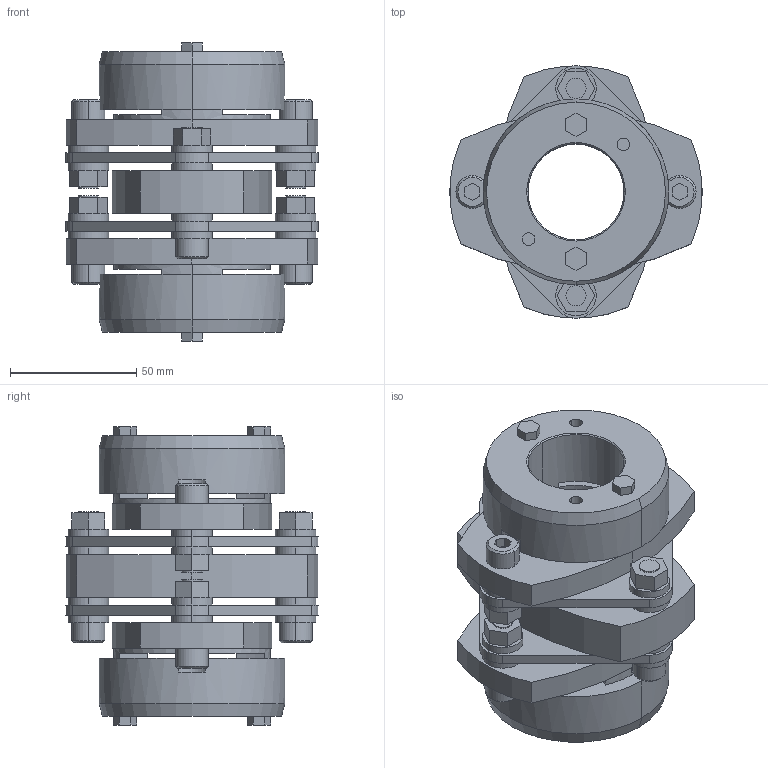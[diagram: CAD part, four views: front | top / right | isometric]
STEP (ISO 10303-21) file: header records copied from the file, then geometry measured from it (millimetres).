
FILE_DESCRIPTION((''),'2;1');
FILE_NAME('LCD-100T7-38×38.stp','2011-09-09T09:06:19',(''),(''),'AutoCAD STEP 2000i','AutoCAD 2000i',', , ');
FILE_SCHEMA(('CONFIG_CONTROL_DESIGN'));
Length unit declared in the file: millimetre
Products named in the file (10): LCD-100T7-38×38; 忣兜1; LC100T7-T038-1; LC100T7-T038; LC100T7-T035; LC100T7-T030; LC100T7-T025; LC100T7-T022-1; LC100T7-T022; LCD100-ITA
Assembly tree (9 placements, depth 2):
  LCD-100T7-38×38
    忣兜1
    LC100T7-T038-1
    LC100T7-T038
    LC100T7-T035
    LC100T7-T030
    LC100T7-T025
    LC100T7-T022-1
    LC100T7-T022
    LCD100-ITA
Bounding box: 100 x 99.93 x 118 mm (x, y, z)
Volume: 359209.3 mm3; surface area: 92215.9 mm2
Topology: 1 solids, 1 shells, 314 faces, 768 edges, 504 vertices
Faces by surface type: plane 166, cylinder 124, cone 24
Entity records: 9569 total; most frequent: DIRECTION 1712, CARTESIAN_POINT 1596, ORIENTED_EDGE 1536, EDGE_CURVE 768, AXIS2_PLACEMENT_3D 620, VERTEX_POINT 504, VECTOR 472, LINE 472
